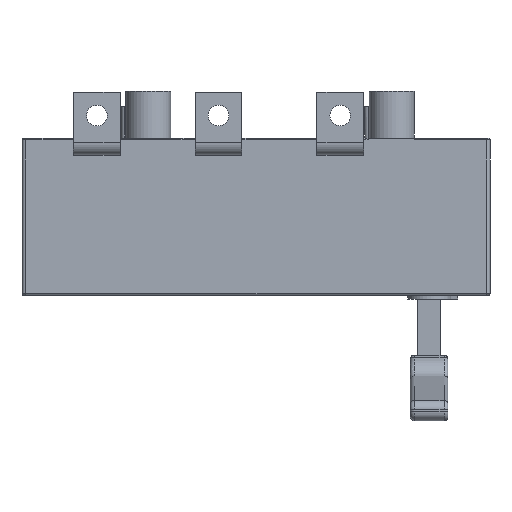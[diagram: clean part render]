
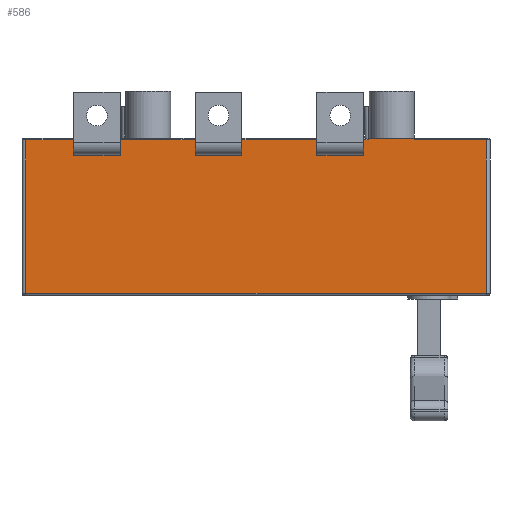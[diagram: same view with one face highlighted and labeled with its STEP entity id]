
A CAD part, front view. The second image highlights one B-rep face of the part: STEP entity #586.
In plain terms, the highlighted planar face has unit normal (0, -1, 0).
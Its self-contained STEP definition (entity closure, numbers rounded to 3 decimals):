
#184=PLANE('',#5126);
#586=ADVANCED_FACE('',(#902),#184,.T.);
#902=FACE_OUTER_BOUND('',#1237,.T.);
#1237=EDGE_LOOP('',(#3234,#3235,#3236,#3237,#3238,#3239,#3240,#3241,#3242,
#3243,#3244,#3245,#3246,#3247,#3248,#3249,#3250,#3251,#3252,#3253,#3254,
#3255,#3256,#3257,#3258,#3259,#3260,#3261));
#1253=LINE('',#6619,#1622);
#1278=LINE('',#6699,#1647);
#1291=LINE('',#6733,#1660);
#1306=LINE('',#6790,#1675);
#1319=LINE('',#6824,#1688);
#1445=LINE('',#7326,#1814);
#1448=LINE('',#7339,#1817);
#1469=LINE('',#7442,#1838);
#1478=LINE('',#7563,#1847);
#1483=LINE('',#7580,#1852);
#1484=LINE('',#7582,#1853);
#1506=LINE('',#7706,#1875);
#1513=LINE('',#7755,#1882);
#1545=LINE('',#7855,#1914);
#1551=LINE('',#7867,#1920);
#1561=LINE('',#7887,#1930);
#1579=LINE('',#7933,#1948);
#1581=LINE('',#7939,#1950);
#1583=LINE('',#7945,#1952);
#1585=LINE('',#7951,#1954);
#1591=LINE('',#7965,#1960);
#1593=LINE('',#7968,#1962);
#1595=LINE('',#7971,#1964);
#1597=LINE('',#7974,#1966);
#1603=LINE('',#7986,#1972);
#1604=LINE('',#7988,#1973);
#1605=LINE('',#7990,#1974);
#1606=LINE('',#7992,#1975);
#1622=VECTOR('',#5186,1.);
#1647=VECTOR('',#5265,1.);
#1660=VECTOR('',#5300,1.);
#1675=VECTOR('',#5355,1.);
#1688=VECTOR('',#5390,1.);
#1814=VECTOR('',#5938,1.);
#1817=VECTOR('',#5949,1.);
#1838=VECTOR('',#6038,1.);
#1847=VECTOR('',#6099,1.);
#1852=VECTOR('',#6122,1.);
#1853=VECTOR('',#6125,1.);
#1875=VECTOR('',#6263,1.);
#1882=VECTOR('',#6284,1.);
#1914=VECTOR('',#6384,1.);
#1920=VECTOR('',#6396,1.);
#1930=VECTOR('',#6418,1.);
#1948=VECTOR('',#6476,1.);
#1950=VECTOR('',#6482,1.);
#1952=VECTOR('',#6488,1.);
#1954=VECTOR('',#6494,1.);
#1960=VECTOR('',#6512,1.);
#1962=VECTOR('',#6516,1.);
#1964=VECTOR('',#6520,1.);
#1966=VECTOR('',#6524,1.);
#1972=VECTOR('',#6542,1.);
#1973=VECTOR('',#6545,1.);
#1974=VECTOR('',#6548,1.);
#1975=VECTOR('',#6551,1.);
#3234=ORIENTED_EDGE('',*,*,#3815,.F.);
#3235=ORIENTED_EDGE('',*,*,#3798,.F.);
#3236=ORIENTED_EDGE('',*,*,#4325,.F.);
#3237=ORIENTED_EDGE('',*,*,#4315,.T.);
#3238=ORIENTED_EDGE('',*,*,#4306,.T.);
#3239=ORIENTED_EDGE('',*,*,#4140,.F.);
#3240=ORIENTED_EDGE('',*,*,#4130,.T.);
#3241=ORIENTED_EDGE('',*,*,#4139,.T.);
#3242=ORIENTED_EDGE('',*,*,#4100,.T.);
#3243=ORIENTED_EDGE('',*,*,#4264,.T.);
#3244=ORIENTED_EDGE('',*,*,#4257,.F.);
#3245=ORIENTED_EDGE('',*,*,#4193,.F.);
#3246=ORIENTED_EDGE('',*,*,#4275,.T.);
#3247=ORIENTED_EDGE('',*,*,#4206,.T.);
#3248=ORIENTED_EDGE('',*,*,#4297,.T.);
#3249=ORIENTED_EDGE('',*,*,#4052,.F.);
#3250=ORIENTED_EDGE('',*,*,#4327,.T.);
#3251=ORIENTED_EDGE('',*,*,#3715,.F.);
#3252=ORIENTED_EDGE('',*,*,#4326,.T.);
#3253=ORIENTED_EDGE('',*,*,#4058,.T.);
#3254=ORIENTED_EDGE('',*,*,#4300,.T.);
#3255=ORIENTED_EDGE('',*,*,#4317,.F.);
#3256=ORIENTED_EDGE('',*,*,#3771,.F.);
#3257=ORIENTED_EDGE('',*,*,#3754,.F.);
#3258=ORIENTED_EDGE('',*,*,#4328,.F.);
#3259=ORIENTED_EDGE('',*,*,#4319,.T.);
#3260=ORIENTED_EDGE('',*,*,#4303,.T.);
#3261=ORIENTED_EDGE('',*,*,#4313,.F.);
#3279=VERTEX_POINT('',#6601);
#3282=VERTEX_POINT('',#6607);
#3285=VERTEX_POINT('',#6614);
#3287=VERTEX_POINT('',#6618);
#3310=VERTEX_POINT('',#6687);
#3314=VERTEX_POINT('',#6694);
#3316=VERTEX_POINT('',#6700);
#3317=VERTEX_POINT('',#6701);
#3342=VERTEX_POINT('',#6778);
#3346=VERTEX_POINT('',#6785);
#3348=VERTEX_POINT('',#6791);
#3349=VERTEX_POINT('',#6792);
#3511=VERTEX_POINT('',#7327);
#3515=VERTEX_POINT('',#7337);
#3546=VERTEX_POINT('',#7435);
#3547=VERTEX_POINT('',#7440);
#3555=VERTEX_POINT('',#7476);
#3565=VERTEX_POINT('',#7518);
#3569=VERTEX_POINT('',#7560);
#3617=VERTEX_POINT('',#7705);
#3618=VERTEX_POINT('',#7707);
#3625=VERTEX_POINT('',#7737);
#3628=VERTEX_POINT('',#7754);
#3663=VERTEX_POINT('',#7856);
#3679=VERTEX_POINT('',#7938);
#3681=VERTEX_POINT('',#7944);
#3682=VERTEX_POINT('',#7946);
#3684=VERTEX_POINT('',#7952);
#3715=EDGE_CURVE('',#3287,#3285,#1253,.T.);
#3754=EDGE_CURVE('',#3316,#3317,#1278,.T.);
#3771=EDGE_CURVE('',#3317,#3310,#1291,.T.);
#3798=EDGE_CURVE('',#3348,#3349,#1306,.T.);
#3815=EDGE_CURVE('',#3349,#3342,#1319,.T.);
#4052=EDGE_CURVE('',#3279,#3511,#1445,.T.);
#4058=EDGE_CURVE('',#3282,#3515,#1448,.T.);
#4100=EDGE_CURVE('',#3546,#3547,#1469,.T.);
#4130=EDGE_CURVE('',#3569,#3565,#1478,.T.);
#4139=EDGE_CURVE('',#3565,#3546,#1483,.T.);
#4140=EDGE_CURVE('',#3569,#3555,#1484,.T.);
#4193=EDGE_CURVE('',#3617,#3618,#1506,.T.);
#4206=EDGE_CURVE('',#3625,#3628,#1513,.T.);
#4257=EDGE_CURVE('',#3618,#3663,#1545,.T.);
#4264=EDGE_CURVE('',#3547,#3663,#1551,.T.);
#4275=EDGE_CURVE('',#3617,#3625,#1561,.T.);
#4297=EDGE_CURVE('',#3628,#3511,#1579,.T.);
#4300=EDGE_CURVE('',#3515,#3679,#1581,.T.);
#4303=EDGE_CURVE('',#3682,#3681,#1583,.T.);
#4306=EDGE_CURVE('',#3684,#3555,#1585,.T.);
#4313=EDGE_CURVE('',#3342,#3681,#1591,.T.);
#4315=EDGE_CURVE('',#3346,#3684,#1593,.T.);
#4317=EDGE_CURVE('',#3310,#3679,#1595,.T.);
#4319=EDGE_CURVE('',#3314,#3682,#1597,.T.);
#4325=EDGE_CURVE('',#3346,#3348,#1603,.T.);
#4326=EDGE_CURVE('',#3287,#3282,#1604,.T.);
#4327=EDGE_CURVE('',#3279,#3285,#1605,.T.);
#4328=EDGE_CURVE('',#3314,#3316,#1606,.T.);
#5126=AXIS2_PLACEMENT_3D('',#7994,#6554,#6555);
#5186=DIRECTION('',(1.,0.,0.));
#5265=DIRECTION('',(1.,0.,0.));
#5300=DIRECTION('',(0.,0.,1.));
#5355=DIRECTION('',(1.,0.,0.));
#5390=DIRECTION('',(0.,0.,1.));
#5938=DIRECTION('',(0.,0.,1.));
#5949=DIRECTION('',(0.,0.,1.));
#6038=DIRECTION('',(-1.,0.,0.));
#6099=DIRECTION('',(1.,0.,0.));
#6122=DIRECTION('',(0.,0.,1.));
#6125=DIRECTION('',(0.,0.,1.));
#6263=DIRECTION('',(0.,0.,-1.));
#6284=DIRECTION('',(0.,0.,-1.));
#6384=DIRECTION('',(1.,0.,0.));
#6396=DIRECTION('',(0.,0.,1.));
#6418=DIRECTION('',(-1.,0.,0.));
#6476=DIRECTION('',(-1.,0.,0.));
#6482=DIRECTION('',(-1.,0.,0.));
#6488=DIRECTION('',(-1.,0.,0.));
#6494=DIRECTION('',(-1.,0.,0.));
#6512=DIRECTION('',(0.,0.,1.));
#6516=DIRECTION('',(0.,0.,1.));
#6520=DIRECTION('',(0.,0.,1.));
#6524=DIRECTION('',(0.,0.,1.));
#6542=DIRECTION('',(0.,0.,-1.));
#6545=DIRECTION('',(0.,0.,1.));
#6548=DIRECTION('',(0.,0.,-1.));
#6551=DIRECTION('',(0.,0.,-1.));
#6554=DIRECTION('',(0.,-1.,0.));
#6555=DIRECTION('',(1.,0.,0.));
#6601=CARTESIAN_POINT('',(-15.,-52.5,-4.598));
#6607=CARTESIAN_POINT('',(-40.,-52.5,-4.598));
#6614=CARTESIAN_POINT('',(-15.,-52.5,-9.098));
#6618=CARTESIAN_POINT('',(-40.,-52.5,-9.098));
#6619=CARTESIAN_POINT('',(-15.,-52.5,-9.098));
#6687=CARTESIAN_POINT('',(-80.,-52.5,-4.598));
#6694=CARTESIAN_POINT('',(-105.,-52.5,-4.598));
#6699=CARTESIAN_POINT('',(-80.,-52.5,-9.098));
#6700=CARTESIAN_POINT('',(-105.,-52.5,-9.098));
#6701=CARTESIAN_POINT('',(-80.,-52.5,-9.098));
#6733=CARTESIAN_POINT('',(-80.,-52.5,4.));
#6778=CARTESIAN_POINT('',(-145.,-52.5,-4.598));
#6785=CARTESIAN_POINT('',(-170.,-52.5,-4.598));
#6790=CARTESIAN_POINT('',(-145.,-52.5,-9.098));
#6791=CARTESIAN_POINT('',(-170.,-52.5,-9.098));
#6792=CARTESIAN_POINT('',(-145.,-52.5,-9.098));
#6824=CARTESIAN_POINT('',(-145.,-52.5,4.));
#7326=CARTESIAN_POINT('',(-15.,-52.5,4.));
#7327=CARTESIAN_POINT('',(-15.,-52.5,-1.));
#7337=CARTESIAN_POINT('',(-40.,-52.5,-1.));
#7339=CARTESIAN_POINT('',(-40.,-52.5,4.));
#7435=CARTESIAN_POINT('',(50.5,-52.5,-1.));
#7440=CARTESIAN_POINT('',(12.,-52.5,-1.));
#7442=CARTESIAN_POINT('',(12.,-52.5,-1.));
#7476=CARTESIAN_POINT('',(-195.5,-52.5,-1.));
#7518=CARTESIAN_POINT('',(50.5,-52.5,-83.));
#7560=CARTESIAN_POINT('',(-195.5,-52.5,-83.));
#7563=CARTESIAN_POINT('',(-12.,-52.5,-83.));
#7580=CARTESIAN_POINT('',(50.5,-52.5,-84.));
#7582=CARTESIAN_POINT('',(-195.5,-52.5,-84.));
#7705=CARTESIAN_POINT('',(-12.,-52.5,17.));
#7706=CARTESIAN_POINT('',(-12.,-52.5,25.));
#7707=CARTESIAN_POINT('',(-12.,-52.5,0.));
#7737=CARTESIAN_POINT('',(-12.5,-52.5,17.));
#7754=CARTESIAN_POINT('',(-12.5,-52.5,-1.));
#7755=CARTESIAN_POINT('',(-12.5,-52.5,4.));
#7855=CARTESIAN_POINT('',(50.5,-52.5,0.));
#7856=CARTESIAN_POINT('',(12.,-52.5,0.));
#7867=CARTESIAN_POINT('',(12.,-52.5,4.));
#7887=CARTESIAN_POINT('',(7.5,-52.5,17.));
#7933=CARTESIAN_POINT('',(-195.5,-52.5,-1.));
#7938=CARTESIAN_POINT('',(-80.,-52.5,-1.));
#7939=CARTESIAN_POINT('',(-195.5,-52.5,-1.));
#7944=CARTESIAN_POINT('',(-145.,-52.5,-1.));
#7945=CARTESIAN_POINT('',(-195.5,-52.5,-1.));
#7946=CARTESIAN_POINT('',(-105.,-52.5,-1.));
#7951=CARTESIAN_POINT('',(-195.5,-52.5,-1.));
#7952=CARTESIAN_POINT('',(-170.,-52.5,-1.));
#7965=CARTESIAN_POINT('',(-145.,-52.5,4.));
#7968=CARTESIAN_POINT('',(-170.,-52.5,4.));
#7971=CARTESIAN_POINT('',(-80.,-52.5,4.));
#7974=CARTESIAN_POINT('',(-105.,-52.5,4.));
#7986=CARTESIAN_POINT('',(-170.,-52.5,4.));
#7988=CARTESIAN_POINT('',(-40.,-52.5,4.));
#7990=CARTESIAN_POINT('',(-15.,-52.5,4.));
#7992=CARTESIAN_POINT('',(-105.,-52.5,4.));
#7994=CARTESIAN_POINT('',(-12.,-52.5,4.));
